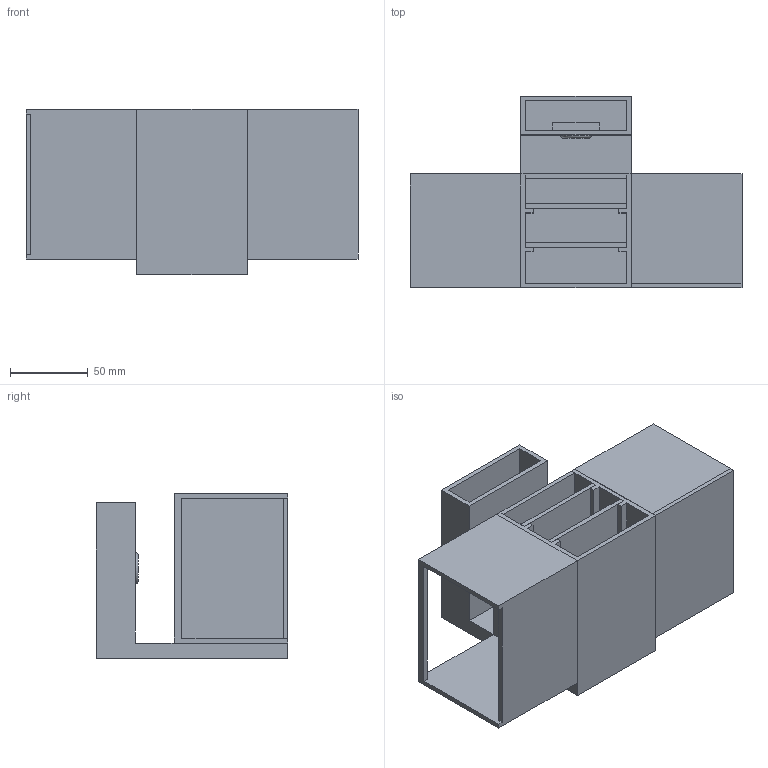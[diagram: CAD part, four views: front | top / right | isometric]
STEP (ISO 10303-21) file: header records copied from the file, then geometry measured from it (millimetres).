
FILE_DESCRIPTION(/* description */ (''),/* implementation_level */ '2;1');
FILE_NAME(/* name */ 'Y:/FabAcademy2019/github_academy2019/fabdata/files/week3/GA_CardReader v1.step',/* time_stamp */ '2019-02-06T00:07:21-05:00',/* author */ ('diego.santacruz@outlook.com'),/* organization */ (''),/* preprocessor_version */ 'ST-DEVELOPER v17.2',/* originating_system */ 'Autodesk Translation Framework v7.6.0.251',/* authorisation */ '');
FILE_SCHEMA (('AUTOMOTIVE_DESIGN { 1 0 10303 214 3 1 1 }'));
Length unit declared in the file: millimetre
Products named in the file (10): GA_CardReader; A1_Card_Loader; A1_Housing; Component2; A2_Camera; A2_Housing; A2_Camera_1; A3_Electronics; A3_Unload; Component1
Assembly tree (9 placements, depth 3):
  GA_CardReader
    A1_Card_Loader
      A1_Housing
      Component2
    A2_Camera
      A2_Housing
      A2_Camera_1
      A3_Electronics
    A3_Unload
      Component1
Bounding box: 213 x 123 x 106 mm (x, y, z)
Volume: 432563.9 mm3; surface area: 247676.8 mm2
Topology: 7 solids, 7 shells, 95 faces, 233 edges, 155 vertices
Faces by surface type: plane 91, cylinder 3, torus 1
Full cylindrical faces by diameter (mm): 10 x1, 20 x2
Entity records: 3056 total; most frequent: CARTESIAN_POINT 502, DIRECTION 471, ORIENTED_EDGE 466, EDGE_CURVE 233, LINE 223, VECTOR 223, VERTEX_POINT 155, AXIS2_PLACEMENT_3D 124
